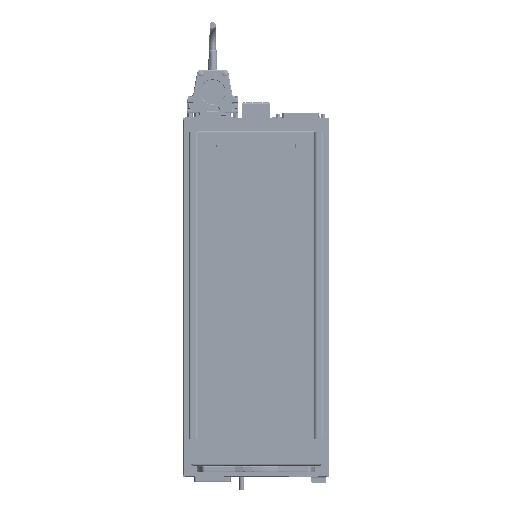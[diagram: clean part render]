
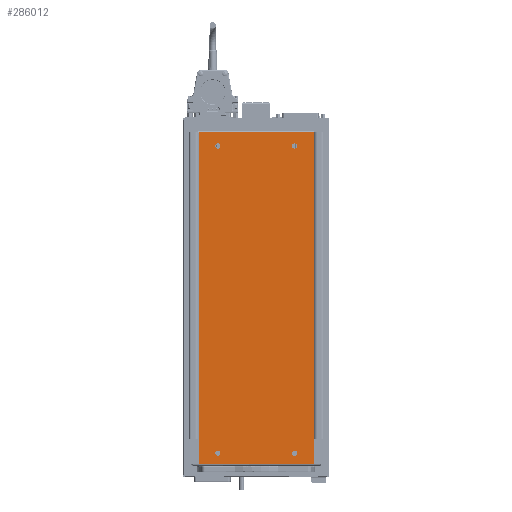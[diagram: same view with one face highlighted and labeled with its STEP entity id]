
A CAD part, top view. The second image highlights one B-rep face of the part: STEP entity #286012.
In plain terms, the highlighted planar face has unit normal (0, 0, 1) as drawn and (0, -1, 0) by its records, which use the part's own axes.
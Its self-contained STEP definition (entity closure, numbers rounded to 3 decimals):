
#417 = EDGE_CURVE ( 'NONE', #288843, #12696, #24893, .T. ) ;
#1780 = CARTESIAN_POINT ( 'NONE',  ( -40., -2., 158.75 ) ) ;
#2774 = DIRECTION ( 'NONE',  ( 1., 0., 0. ) ) ;
#7105 = DIRECTION ( 'NONE',  ( -1., 0., 0. ) ) ;
#12696 = VERTEX_POINT ( 'NONE', #64886 ) ;
#14719 = EDGE_LOOP ( 'NONE', ( #90038, #116975 ) ) ;
#21779 = CARTESIAN_POINT ( 'NONE',  ( -40., -2., -161.95 ) ) ;
#24893 = CIRCLE ( 'NONE', #173845, 2.75 ) ;
#27727 = CARTESIAN_POINT ( 'NONE',  ( -60., -2., -173. ) ) ;
#28272 = CARTESIAN_POINT ( 'NONE',  ( 60., -2., 173. ) ) ;
#41893 = CIRCLE ( 'NONE', #239865, 2.75 ) ;
#42120 = DIRECTION ( 'NONE',  ( 0., 0., -1. ) ) ;
#42145 = EDGE_CURVE ( 'NONE', #276813, #130267, #66182, .T. ) ;
#43196 = AXIS2_PLACEMENT_3D ( 'NONE', #118339, #275422, #261646 ) ;
#43625 = CARTESIAN_POINT ( 'NONE',  ( -40., -2., 158.75 ) ) ;
#44473 = AXIS2_PLACEMENT_3D ( 'NONE', #43625, #66214, #159477 ) ;
#44532 = CARTESIAN_POINT ( 'NONE',  ( 40., -2., -161.95 ) ) ;
#44975 = DIRECTION ( 'NONE',  ( 0., -1., 0. ) ) ;
#45475 = CARTESIAN_POINT ( 'NONE',  ( 40., -2., -164.7 ) ) ;
#47860 = DIRECTION ( 'NONE',  ( 0., 0., -1. ) ) ;
#48674 = CARTESIAN_POINT ( 'NONE',  ( -40., -2., -164.7 ) ) ;
#53565 = VERTEX_POINT ( 'NONE', #213338 ) ;
#57258 = CIRCLE ( 'NONE', #43196, 2.75 ) ;
#58518 = ORIENTED_EDGE ( 'NONE', *, *, #172600, .F. ) ;
#60752 = FACE_BOUND ( 'NONE', #151260, .T. ) ;
#64886 = CARTESIAN_POINT ( 'NONE',  ( 40., -2., -159.2 ) ) ;
#66182 = CIRCLE ( 'NONE', #277349, 2.75 ) ;
#66214 = DIRECTION ( 'NONE',  ( 0., -1., 0. ) ) ;
#66445 = AXIS2_PLACEMENT_3D ( 'NONE', #145324, #277939, #190464 ) ;
#71430 = CARTESIAN_POINT ( 'NONE',  ( -40., -2., -161.95 ) ) ;
#76713 = VECTOR ( 'NONE', #153375, 1000. ) ;
#78277 = FACE_BOUND ( 'NONE', #232029, .T. ) ;
#79156 = VECTOR ( 'NONE', #225658, 1000. ) ;
#79389 = DIRECTION ( 'NONE',  ( 0., 0., -1. ) ) ;
#90038 = ORIENTED_EDGE ( 'NONE', *, *, #276190, .F. ) ;
#92359 = FACE_BOUND ( 'NONE', #209448, .T. ) ;
#100234 = LINE ( 'NONE', #221790, #79156 ) ;
#100300 = VECTOR ( 'NONE', #7105, 1000. ) ;
#102706 = VERTEX_POINT ( 'NONE', #28272 ) ;
#105403 = VERTEX_POINT ( 'NONE', #278375 ) ;
#112871 = DIRECTION ( 'NONE',  ( 0., -1., 0. ) ) ;
#116710 = EDGE_CURVE ( 'NONE', #53565, #102706, #155686, .T. ) ;
#116975 = ORIENTED_EDGE ( 'NONE', *, *, #42145, .F. ) ;
#118339 = CARTESIAN_POINT ( 'NONE',  ( 40., -2., 158.75 ) ) ;
#121402 = EDGE_CURVE ( 'NONE', #190543, #53565, #100234, .T. ) ;
#122735 = PLANE ( 'NONE',  #66445 ) ;
#123654 = DIRECTION ( 'NONE',  ( 0., -1., 0. ) ) ;
#126865 = EDGE_CURVE ( 'NONE', #199779, #279580, #237154, .T. ) ;
#130267 = VERTEX_POINT ( 'NONE', #149342 ) ;
#141627 = EDGE_CURVE ( 'NONE', #224986, #176974, #157302, .T. ) ;
#143963 = EDGE_LOOP ( 'NONE', ( #262250, #276710, #193442, #291295 ) ) ;
#145324 = CARTESIAN_POINT ( 'NONE',  ( 0., -2., 0. ) ) ;
#149342 = CARTESIAN_POINT ( 'NONE',  ( 40., -2., 156. ) ) ;
#149588 = CIRCLE ( 'NONE', #194523, 2.75 ) ;
#151260 = EDGE_LOOP ( 'NONE', ( #267418, #191599 ) ) ;
#151313 = CARTESIAN_POINT ( 'NONE',  ( 40., -2., 161.5 ) ) ;
#153375 = DIRECTION ( 'NONE',  ( 0., 0., -1. ) ) ;
#155529 = DIRECTION ( 'NONE',  ( 0., -1., 0. ) ) ;
#155686 = LINE ( 'NONE', #224852, #278494 ) ;
#157302 = CIRCLE ( 'NONE', #256925, 2.75 ) ;
#159103 = FACE_OUTER_BOUND ( 'NONE', #143963, .T. ) ;
#159477 = DIRECTION ( 'NONE',  ( 0., 0., -1. ) ) ;
#166896 = CARTESIAN_POINT ( 'NONE',  ( 40., -2., -161.95 ) ) ;
#168656 = DIRECTION ( 'NONE',  ( 0., -1., 0. ) ) ;
#170569 = CARTESIAN_POINT ( 'NONE',  ( 40., -2., 158.75 ) ) ;
#172600 = EDGE_CURVE ( 'NONE', #279580, #199779, #149588, .T. ) ;
#173845 = AXIS2_PLACEMENT_3D ( 'NONE', #166896, #123654, #255292 ) ;
#176974 = VERTEX_POINT ( 'NONE', #48674 ) ;
#178542 = LINE ( 'NONE', #265328, #76713 ) ;
#179434 = CARTESIAN_POINT ( 'NONE',  ( -40., -2., 156. ) ) ;
#190464 = DIRECTION ( 'NONE',  ( 0., 0., -1. ) ) ;
#190543 = VERTEX_POINT ( 'NONE', #248092 ) ;
#191599 = ORIENTED_EDGE ( 'NONE', *, *, #262230, .F. ) ;
#193442 = ORIENTED_EDGE ( 'NONE', *, *, #121402, .F. ) ;
#194523 = AXIS2_PLACEMENT_3D ( 'NONE', #1780, #112871, #225797 ) ;
#199779 = VERTEX_POINT ( 'NONE', #235807 ) ;
#203305 = ORIENTED_EDGE ( 'NONE', *, *, #287510, .F. ) ;
#209448 = EDGE_LOOP ( 'NONE', ( #58518, #283025 ) ) ;
#213338 = CARTESIAN_POINT ( 'NONE',  ( -60., -2., 173. ) ) ;
#221790 = CARTESIAN_POINT ( 'NONE',  ( -60., -2., 173. ) ) ;
#223488 = LINE ( 'NONE', #27727, #100300 ) ;
#224240 = DIRECTION ( 'NONE',  ( 0., 0., -1. ) ) ;
#224852 = CARTESIAN_POINT ( 'NONE',  ( -60., -2., 173. ) ) ;
#224986 = VERTEX_POINT ( 'NONE', #239041 ) ;
#225658 = DIRECTION ( 'NONE',  ( 0., 0., 1. ) ) ;
#225797 = DIRECTION ( 'NONE',  ( 0., 0., -1. ) ) ;
#232029 = EDGE_LOOP ( 'NONE', ( #203305, #259837 ) ) ;
#235807 = CARTESIAN_POINT ( 'NONE',  ( -40., -2., 161.5 ) ) ;
#236647 = CIRCLE ( 'NONE', #286354, 2.75 ) ;
#237154 = CIRCLE ( 'NONE', #44473, 2.75 ) ;
#239041 = CARTESIAN_POINT ( 'NONE',  ( -40., -2., -159.2 ) ) ;
#239865 = AXIS2_PLACEMENT_3D ( 'NONE', #71430, #44975, #47860 ) ;
#248092 = CARTESIAN_POINT ( 'NONE',  ( -60., -2., -173. ) ) ;
#249742 = EDGE_CURVE ( 'NONE', #102706, #105403, #178542, .T. ) ;
#255292 = DIRECTION ( 'NONE',  ( 0., 0., -1. ) ) ;
#256925 = AXIS2_PLACEMENT_3D ( 'NONE', #21779, #258227, #42120 ) ;
#258227 = DIRECTION ( 'NONE',  ( 0., -1., 0. ) ) ;
#259837 = ORIENTED_EDGE ( 'NONE', *, *, #141627, .F. ) ;
#261257 = EDGE_CURVE ( 'NONE', #105403, #190543, #223488, .T. ) ;
#261646 = DIRECTION ( 'NONE',  ( 0., 0., -1. ) ) ;
#262230 = EDGE_CURVE ( 'NONE', #12696, #288843, #236647, .T. ) ;
#262250 = ORIENTED_EDGE ( 'NONE', *, *, #249742, .F. ) ;
#265328 = CARTESIAN_POINT ( 'NONE',  ( 60., -2., 173. ) ) ;
#267418 = ORIENTED_EDGE ( 'NONE', *, *, #417, .F. ) ;
#275422 = DIRECTION ( 'NONE',  ( 0., -1., 0. ) ) ;
#276190 = EDGE_CURVE ( 'NONE', #130267, #276813, #57258, .T. ) ;
#276710 = ORIENTED_EDGE ( 'NONE', *, *, #116710, .F. ) ;
#276813 = VERTEX_POINT ( 'NONE', #151313 ) ;
#277349 = AXIS2_PLACEMENT_3D ( 'NONE', #170569, #168656, #79389 ) ;
#277939 = DIRECTION ( 'NONE',  ( 0., -1., 0. ) ) ;
#278375 = CARTESIAN_POINT ( 'NONE',  ( 60., -2., -173. ) ) ;
#278494 = VECTOR ( 'NONE', #2774, 1000. ) ;
#278532 = FACE_BOUND ( 'NONE', #14719, .T. ) ;
#279580 = VERTEX_POINT ( 'NONE', #179434 ) ;
#283025 = ORIENTED_EDGE ( 'NONE', *, *, #126865, .F. ) ;
#286012 = ADVANCED_FACE ( 'NONE', ( #78277, #60752, #278532, #92359, #159103 ), #122735, .T. ) ;
#286354 = AXIS2_PLACEMENT_3D ( 'NONE', #44532, #155529, #224240 ) ;
#287510 = EDGE_CURVE ( 'NONE', #176974, #224986, #41893, .T. ) ;
#288843 = VERTEX_POINT ( 'NONE', #45475 ) ;
#291295 = ORIENTED_EDGE ( 'NONE', *, *, #261257, .F. ) ;
